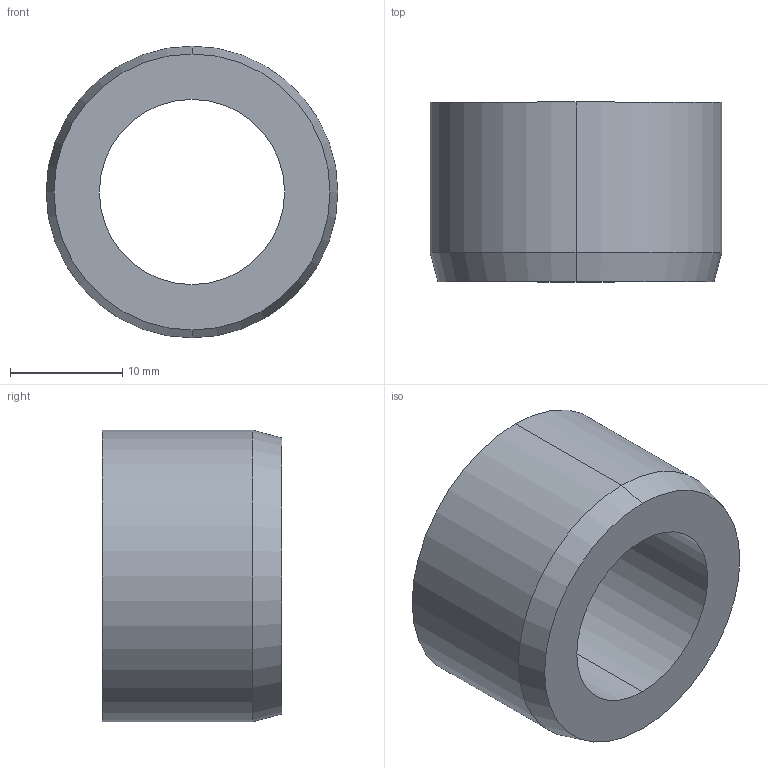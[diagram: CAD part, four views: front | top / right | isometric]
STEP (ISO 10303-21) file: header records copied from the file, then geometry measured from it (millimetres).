
FILE_DESCRIPTION (( 'STEP AP214' ), '1' );
FILE_NAME ('179-B16,5-16-A.step', '2024-10-17T05:53:29', ( '' ), ( '' ), 'SwSTEP 2.0', 'SolidWorks 2022', '' );
FILE_SCHEMA (( 'AUTOMOTIVE_DESIGN' ));
Length unit declared in the file: millimetre
Products named in the file (1): 179-B16,5-16-A
Bounding box: 26 x 16 x 26 mm (x, y, z)
Volume: 4993.3 mm3; surface area: 2698.7 mm2
Topology: 1 solids, 1 shells, 10 faces, 20 edges, 12 vertices
Faces by surface type: cylinder 4, cone 2, torus 2, plane 2
Entity records: 414 total; most frequent: DIRECTION 56, CARTESIAN_POINT 43, ORIENTED_EDGE 40, AXIS2_PLACEMENT_3D 25, EDGE_CURVE 20, CIRCLE 14, UNCERTAINTY_MEASURE_WITH_UNIT 13, SURFACE_STYLE_FILL_AREA 12
